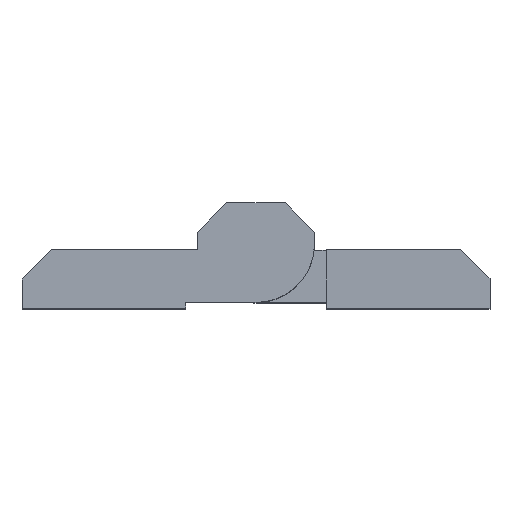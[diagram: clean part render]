
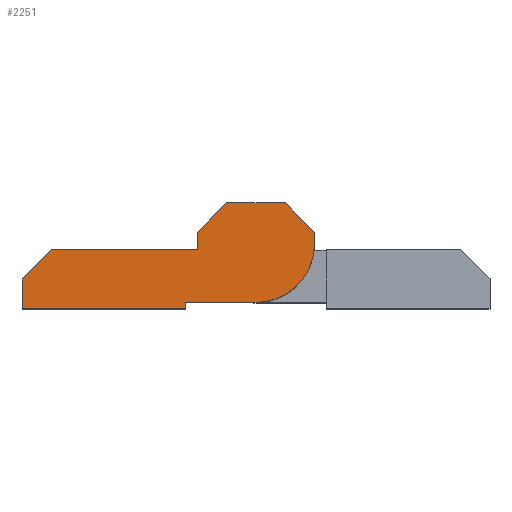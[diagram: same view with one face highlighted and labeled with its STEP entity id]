
A CAD part, top view. The second image highlights one B-rep face of the part: STEP entity #2251.
In plain terms, the highlighted planar face has unit normal (0, 0, 1) as drawn and (0, 0, -1) by its records, which use the part's own axes.
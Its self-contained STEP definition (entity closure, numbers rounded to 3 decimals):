
#66 = EDGE_CURVE ( 'NONE', #3306, #2592, #10741, .T. ) ;
#96 = LINE ( 'NONE', #10705, #10943 ) ;
#202 = ORIENTED_EDGE ( 'NONE', *, *, #3988, .T. ) ;
#655 = EDGE_CURVE ( 'NONE', #741, #1677, #8487, .T. ) ;
#741 = VERTEX_POINT ( 'NONE', #4388 ) ;
#841 = CARTESIAN_POINT ( 'NONE',  ( 6., -5.5, 0. ) ) ;
#855 = LINE ( 'NONE', #5942, #3516 ) ;
#935 = ORIENTED_EDGE ( 'NONE', *, *, #7624, .T. ) ;
#1132 = CARTESIAN_POINT ( 'NONE',  ( 0., -5., 0. ) ) ;
#1329 = LINE ( 'NONE', #1132, #4949 ) ;
#1567 = EDGE_CURVE ( 'NONE', #5189, #5913, #6974, .T. ) ;
#1641 = DIRECTION ( 'NONE',  ( -1., 0., 0. ) ) ;
#1663 = CARTESIAN_POINT ( 'NONE',  ( 17.5, -0.5, 0. ) ) ;
#1677 = VERTEX_POINT ( 'NONE', #2147 ) ;
#1752 = CARTESIAN_POINT ( 'NONE',  ( -2.5, 3.5, 0. ) ) ;
#1759 = DIRECTION ( 'NONE',  ( 0.707, 0.707, 0. ) ) ;
#1760 = DIRECTION ( 'NONE',  ( 0., 0., 1. ) ) ;
#1926 = CARTESIAN_POINT ( 'NONE',  ( -5., 1., 0. ) ) ;
#2147 = CARTESIAN_POINT ( 'NONE',  ( 20., -5.5, 0. ) ) ;
#2251 = ADVANCED_FACE ( 'NONE', ( #8642 ), #4547, .F. ) ;
#2289 = CARTESIAN_POINT ( 'NONE',  ( -5., 0., 0. ) ) ;
#2442 = DIRECTION ( 'NONE',  ( 0., -1., 0. ) ) ;
#2476 = CARTESIAN_POINT ( 'NONE',  ( 4.987, 1.013, 0. ) ) ;
#2592 = VERTEX_POINT ( 'NONE', #5184 ) ;
#2663 = EDGE_CURVE ( 'NONE', #2592, #741, #3485, .T. ) ;
#2665 = DIRECTION ( 'NONE',  ( -1., 0., 0. ) ) ;
#2814 = ORIENTED_EDGE ( 'NONE', *, *, #11635, .T. ) ;
#2885 = VERTEX_POINT ( 'NONE', #2476 ) ;
#3070 = CARTESIAN_POINT ( 'NONE',  ( -2.5, 3.5, 0. ) ) ;
#3215 = EDGE_CURVE ( 'NONE', #1677, #8916, #96, .T. ) ;
#3306 = VERTEX_POINT ( 'NONE', #12227 ) ;
#3485 = LINE ( 'NONE', #10391, #5308 ) ;
#3516 = VECTOR ( 'NONE', #8707, 1000. ) ;
#3631 = CARTESIAN_POINT ( 'NONE',  ( 0., 0., 0. ) ) ;
#3714 = VECTOR ( 'NONE', #2442, 1000. ) ;
#3800 = VERTEX_POINT ( 'NONE', #8011 ) ;
#3988 = EDGE_CURVE ( 'NONE', #10498, #5189, #10083, .T. ) ;
#4388 = CARTESIAN_POINT ( 'NONE',  ( 20., -3., 0. ) ) ;
#4460 = ORIENTED_EDGE ( 'NONE', *, *, #8462, .T. ) ;
#4547 = PLANE ( 'NONE',  #11217 ) ;
#4586 = VECTOR ( 'NONE', #12011, 1000. ) ;
#4657 = VECTOR ( 'NONE', #5589, 1000. ) ;
#4949 = VECTOR ( 'NONE', #5066, 1000. ) ;
#5066 = DIRECTION ( 'NONE',  ( -1., 0., 0. ) ) ;
#5184 = CARTESIAN_POINT ( 'NONE',  ( 17.5, -0.5, 0. ) ) ;
#5189 = VERTEX_POINT ( 'NONE', #1926 ) ;
#5260 = DIRECTION ( 'NONE',  ( 0., 1., 0. ) ) ;
#5308 = VECTOR ( 'NONE', #7485, 1000. ) ;
#5422 = VECTOR ( 'NONE', #5260, 1000. ) ;
#5428 = LINE ( 'NONE', #7534, #11729 ) ;
#5485 = DIRECTION ( 'NONE',  ( 0., 1., 0. ) ) ;
#5589 = DIRECTION ( 'NONE',  ( 1., 0., 0. ) ) ;
#5748 = ORIENTED_EDGE ( 'NONE', *, *, #6856, .T. ) ;
#5881 = AXIS2_PLACEMENT_3D ( 'NONE', #3631, #9679, #2665 ) ;
#5913 = VERTEX_POINT ( 'NONE', #1752 ) ;
#5942 = CARTESIAN_POINT ( 'NONE',  ( 2.5, 3.5, 0. ) ) ;
#6468 = EDGE_CURVE ( 'NONE', #2885, #3306, #12079, .T. ) ;
#6856 = EDGE_CURVE ( 'NONE', #8916, #8245, #5428, .T. ) ;
#6858 = EDGE_LOOP ( 'NONE', ( #10590, #7205, #935, #10233, #7707, #7014, #11849, #7222, #5748, #2814, #4460, #202 ) ) ;
#6944 = CARTESIAN_POINT ( 'NONE',  ( 6., -5., 0. ) ) ;
#6974 = LINE ( 'NONE', #11668, #11856 ) ;
#6997 = DIRECTION ( 'NONE',  ( 1., 0., 0. ) ) ;
#7014 = ORIENTED_EDGE ( 'NONE', *, *, #2663, .T. ) ;
#7205 = ORIENTED_EDGE ( 'NONE', *, *, #11221, .T. ) ;
#7222 = ORIENTED_EDGE ( 'NONE', *, *, #3215, .T. ) ;
#7485 = DIRECTION ( 'NONE',  ( 0.707, -0.707, 0. ) ) ;
#7534 = CARTESIAN_POINT ( 'NONE',  ( 6., -5., 0. ) ) ;
#7622 = VECTOR ( 'NONE', #6997, 1000. ) ;
#7624 = EDGE_CURVE ( 'NONE', #12362, #2885, #855, .T. ) ;
#7707 = ORIENTED_EDGE ( 'NONE', *, *, #66, .T. ) ;
#8011 = CARTESIAN_POINT ( 'NONE',  ( 0., -5., 0. ) ) ;
#8245 = VERTEX_POINT ( 'NONE', #6944 ) ;
#8462 = EDGE_CURVE ( 'NONE', #3800, #10498, #9583, .T. ) ;
#8487 = LINE ( 'NONE', #10240, #3714 ) ;
#8642 = FACE_OUTER_BOUND ( 'NONE', #6858, .T. ) ;
#8707 = DIRECTION ( 'NONE',  ( 0.707, -0.707, 0. ) ) ;
#8771 = DIRECTION ( 'NONE',  ( -1., 0., 0. ) ) ;
#8916 = VERTEX_POINT ( 'NONE', #841 ) ;
#9583 = CIRCLE ( 'NONE', #5881, 5. ) ;
#9679 = DIRECTION ( 'NONE',  ( 0., 0., -1. ) ) ;
#9701 = CARTESIAN_POINT ( 'NONE',  ( 2.5, 3.5, 0. ) ) ;
#10083 = LINE ( 'NONE', #2289, #5422 ) ;
#10211 = CARTESIAN_POINT ( 'NONE',  ( 5., -0.5, 0. ) ) ;
#10233 = ORIENTED_EDGE ( 'NONE', *, *, #6468, .T. ) ;
#10240 = CARTESIAN_POINT ( 'NONE',  ( 20., -5.5, 0. ) ) ;
#10391 = CARTESIAN_POINT ( 'NONE',  ( 20., -3., 0. ) ) ;
#10498 = VERTEX_POINT ( 'NONE', #12147 ) ;
#10590 = ORIENTED_EDGE ( 'NONE', *, *, #1567, .T. ) ;
#10705 = CARTESIAN_POINT ( 'NONE',  ( 6., -5.5, 0. ) ) ;
#10741 = LINE ( 'NONE', #1663, #4657 ) ;
#10943 = VECTOR ( 'NONE', #8771, 1000. ) ;
#11217 = AXIS2_PLACEMENT_3D ( 'NONE', #11309, #1760, #1641 ) ;
#11221 = EDGE_CURVE ( 'NONE', #5913, #12362, #11897, .T. ) ;
#11309 = CARTESIAN_POINT ( 'NONE',  ( 0., 0., 0. ) ) ;
#11635 = EDGE_CURVE ( 'NONE', #8245, #3800, #1329, .T. ) ;
#11668 = CARTESIAN_POINT ( 'NONE',  ( -2.5, 3.5, 0. ) ) ;
#11729 = VECTOR ( 'NONE', #5485, 1000. ) ;
#11849 = ORIENTED_EDGE ( 'NONE', *, *, #655, .T. ) ;
#11856 = VECTOR ( 'NONE', #1759, 1000. ) ;
#11897 = LINE ( 'NONE', #3070, #7622 ) ;
#12011 = DIRECTION ( 'NONE',  ( 0.009, -1., 0. ) ) ;
#12079 = LINE ( 'NONE', #10211, #4586 ) ;
#12147 = CARTESIAN_POINT ( 'NONE',  ( -5., 0., 0. ) ) ;
#12227 = CARTESIAN_POINT ( 'NONE',  ( 5., -0.5, 0. ) ) ;
#12362 = VERTEX_POINT ( 'NONE', #9701 ) ;
